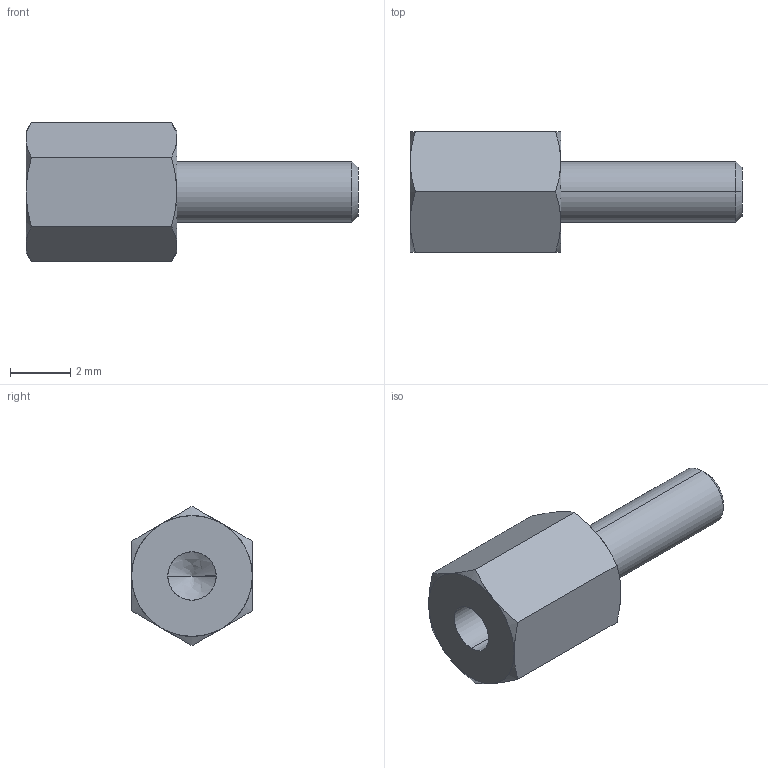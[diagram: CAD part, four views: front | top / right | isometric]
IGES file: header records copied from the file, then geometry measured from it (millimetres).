
Start section: SolidWorks IGES file using analytic representation for surfaces
Global section: file name: C:\Users\render1\Desktop\P0185_IGES\P0185.02-05.igs; native system: SolidWorks 2009; preprocessor: SolidWorks 2009; author: render1; date: 130627.111232; units: millimetre
Bounding box: 11 x 4 x 4.62 mm (x, y, z)
Surface area: 145.5 mm2 (no closed solid volume)
Topology: 0 solids, 0 shells, 29 faces, 292 edges, 290 vertices
Faces by surface type: revolution 20, bspline 9
